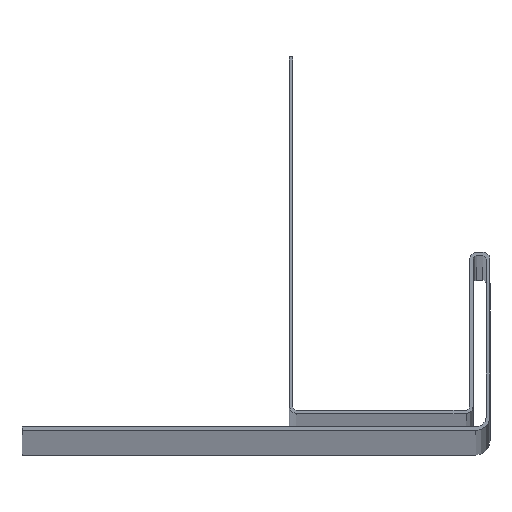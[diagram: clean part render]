
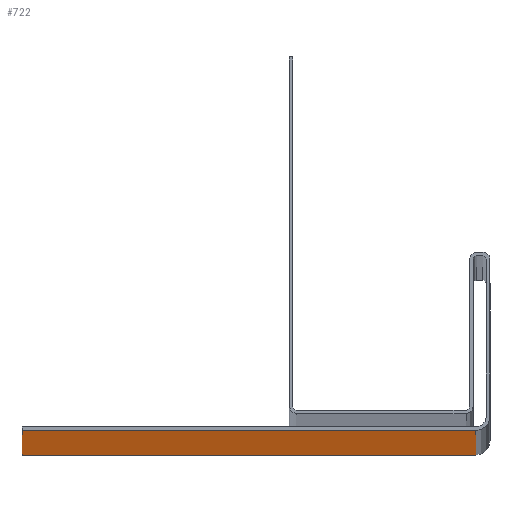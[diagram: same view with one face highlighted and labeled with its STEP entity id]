
A CAD part, top view. The second image highlights one B-rep face of the part: STEP entity #722.
In plain terms, the highlighted planar face has unit normal (0, -1, 0).
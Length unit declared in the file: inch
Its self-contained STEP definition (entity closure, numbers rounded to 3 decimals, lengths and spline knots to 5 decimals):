
#9 = DIRECTION ( 'NONE',  ( 1., 0., 0. ) ) ;
#21 = LINE ( 'NONE', #369, #632 ) ;
#34 = EDGE_CURVE ( 'NONE', #65, #743, #261, .T. ) ;
#65 = VERTEX_POINT ( 'NONE', #306 ) ;
#73 = CARTESIAN_POINT ( 'NONE',  ( 1.045, -0.095, 78.74016 ) ) ;
#85 = ORIENTED_EDGE ( 'NONE', *, *, #819, .F. ) ;
#154 = LINE ( 'NONE', #267, #612 ) ;
#168 = VECTOR ( 'NONE', #172, 39.37008 ) ;
#172 = DIRECTION ( 'NONE',  ( -1., 0., 0. ) ) ;
#261 = LINE ( 'NONE', #782, #935 ) ;
#267 = CARTESIAN_POINT ( 'NONE',  ( 1.045, -0.095, 78.74016 ) ) ;
#290 = FACE_OUTER_BOUND ( 'NONE', #425, .T. ) ;
#299 = PLANE ( 'NONE',  #398 ) ;
#305 = CARTESIAN_POINT ( 'NONE',  ( 1.045, -0.095, 78.74016 ) ) ;
#306 = CARTESIAN_POINT ( 'NONE',  ( -1.5, -0.095, 78.74016 ) ) ;
#369 = CARTESIAN_POINT ( 'NONE',  ( 0., -0.095, 78.74016 ) ) ;
#380 = EDGE_CURVE ( 'NONE', #915, #660, #154, .T. ) ;
#391 = LINE ( 'NONE', #636, #168 ) ;
#398 = AXIS2_PLACEMENT_3D ( 'NONE', #73, #466, #9 ) ;
#425 = EDGE_LOOP ( 'NONE', ( #85, #806, #781, #917 ) ) ;
#456 = DIRECTION ( 'NONE',  ( -1., 0., 0. ) ) ;
#466 = DIRECTION ( 'NONE',  ( 0., -1., 0. ) ) ;
#612 = VECTOR ( 'NONE', #809, 39.37008 ) ;
#632 = VECTOR ( 'NONE', #456, 39.37008 ) ;
#636 = CARTESIAN_POINT ( 'NONE',  ( 1.045, -0.095, 0. ) ) ;
#653 = EDGE_CURVE ( 'NONE', #915, #65, #21, .T. ) ;
#660 = VERTEX_POINT ( 'NONE', #911 ) ;
#706 = DIRECTION ( 'NONE',  ( 0., 0., -1. ) ) ;
#722 = ADVANCED_FACE ( 'NONE', ( #290 ), #299, .T. ) ;
#743 = VERTEX_POINT ( 'NONE', #776 ) ;
#776 = CARTESIAN_POINT ( 'NONE',  ( -1.5, -0.095, 0. ) ) ;
#781 = ORIENTED_EDGE ( 'NONE', *, *, #653, .T. ) ;
#782 = CARTESIAN_POINT ( 'NONE',  ( -1.5, -0.095, 78.74016 ) ) ;
#806 = ORIENTED_EDGE ( 'NONE', *, *, #380, .F. ) ;
#809 = DIRECTION ( 'NONE',  ( 0., 0., -1. ) ) ;
#819 = EDGE_CURVE ( 'NONE', #660, #743, #391, .T. ) ;
#911 = CARTESIAN_POINT ( 'NONE',  ( 1.045, -0.095, 0. ) ) ;
#915 = VERTEX_POINT ( 'NONE', #305 ) ;
#917 = ORIENTED_EDGE ( 'NONE', *, *, #34, .T. ) ;
#935 = VECTOR ( 'NONE', #706, 39.37008 ) ;
